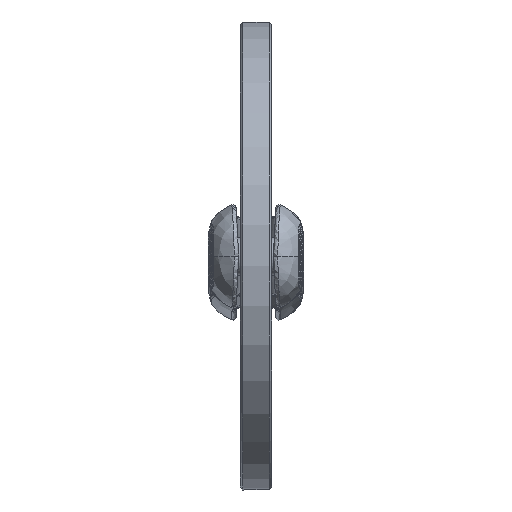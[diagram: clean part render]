
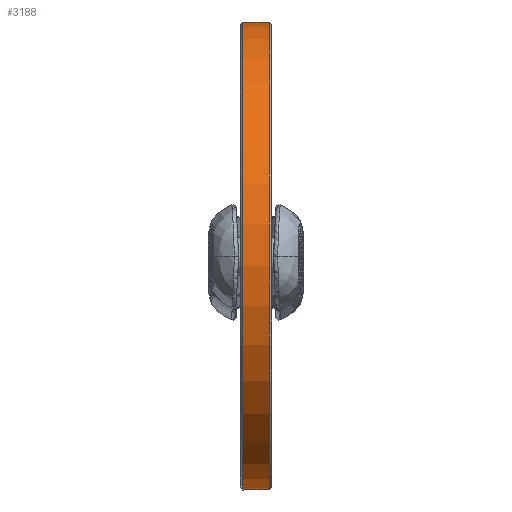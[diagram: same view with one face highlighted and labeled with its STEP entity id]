
A CAD part, top view. The second image highlights one B-rep face of the part: STEP entity #3188.
In plain terms, the highlighted cylindrical face has radius 297.5 mm (diameter 595 mm), a full revolution.
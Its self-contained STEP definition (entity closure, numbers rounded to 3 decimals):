
#777=FACE_BOUND($,#1471,.T.);
#962=CIRCLE($,#3540,297.5);
#963=CIRCLE($,#3542,297.5);
#1163=FACE_OUTER_BOUND($,#1470,.T.);
#1470=EDGE_LOOP($,(#2922));
#1471=EDGE_LOOP($,(#2923));
#1764=VERTEX_POINT($,#13704);
#1765=VERTEX_POINT($,#13707);
#2155=EDGE_CURVE($,#1764,#1764,#962,.T.);
#2156=EDGE_CURVE($,#1765,#1765,#963,.T.);
#2922=ORIENTED_EDGE($,*,*,#2156,.F.);
#2923=ORIENTED_EDGE($,*,*,#2155,.F.);
#2975=CYLINDRICAL_SURFACE($,#3541,297.5);
#3188=ADVANCED_FACE($,(#1163,#777),#2975,.T.);
#3540=AXIS2_PLACEMENT_3D($,#13705,#4297,#4298);
#3541=AXIS2_PLACEMENT_3D($,#13706,#4299,#4300);
#3542=AXIS2_PLACEMENT_3D($,#13708,#4301,#4302);
#4297=DIRECTION('center_axis',(0.,0.,-1.));
#4298=DIRECTION('ref_axis',(-1.,0.,0.));
#4299=DIRECTION('center_axis',(0.,0.,1.));
#4300=DIRECTION('ref_axis',(-1.,0.,0.));
#4301=DIRECTION('center_axis',(0.,0.,1.));
#4302=DIRECTION('ref_axis',(-1.,0.,0.));
#13704=CARTESIAN_POINT('',(297.5,0.,-17.));
#13705=CARTESIAN_POINT('Origin',(0.,0.,-17.));
#13706=CARTESIAN_POINT('Origin',(0.,0.,0.));
#13707=CARTESIAN_POINT('',(297.5,0.,17.));
#13708=CARTESIAN_POINT('Origin',(0.,0.,17.));
